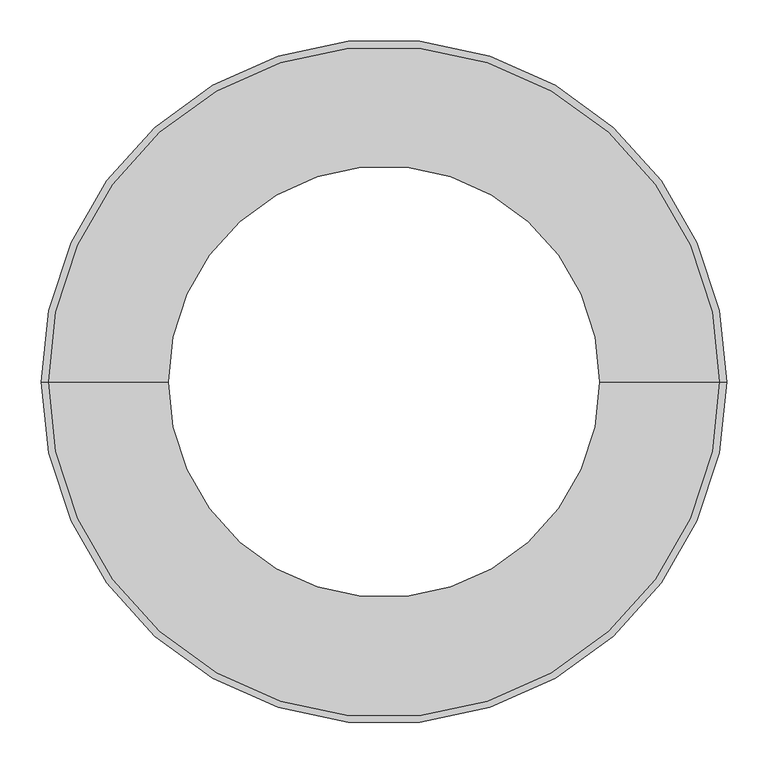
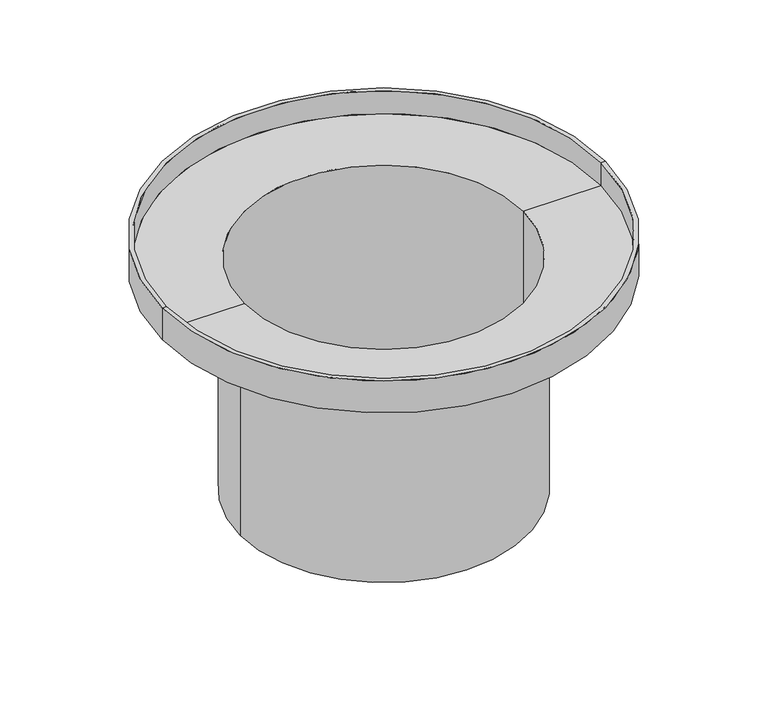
"""IFC4 building model written with IfcOpenShell, lengths in millimetres: valve geometry, Pipelife - Studnia PRO - Teleskop 630 : Teleskop."""

import ifcopenshell
import ifcopenshell.guid

model = None  # the IFC model being written
_history = None  # IfcOwnerHistory: only IFC2X3 demands one
_inside = {}  # id of a spatial element -> (the spatial element, [elements in it])
_under = {}  # id of a project, library or spatial element -> (it, [spatial elements below it])
_declared = {}  # id of a project -> (the project, [libraries it declares])
_typed = {}  # id of a type object -> (the type object, [elements of that type])
_made_of = {}  # id of a material, layer set ... -> (it, [elements and type objects made of it])


def new_model(schema):
    """Start an empty IFC model of exactly this schema.

    Asked for "IFC4X3", IfcOpenShell would pick the latest addendum, in which some entities
    have other attributes; the version numbers below select the first issue.
    IFC2X3 requires an IfcOwnerHistory on every rooted entity: one is made here for all.
    """
    global model, _history
    if schema == "IFC4X3":
        model = ifcopenshell.file(schema_version=(4, 3, 0, 0))
    else:
        model = ifcopenshell.file(schema=schema)
    _inside.clear()
    _under.clear()
    _declared.clear()
    _typed.clear()
    _made_of.clear()
    _history = None
    if model.schema == "IFC2X3":
        org = make("IfcOrganization", Name="unknown")
        user = make(
            "IfcPersonAndOrganization",
            ThePerson=make("IfcPerson", FamilyName="unknown"),
            TheOrganization=org,
        )
        app = make(
            "IfcApplication",
            ApplicationDeveloper=org,
            Version="unknown",
            ApplicationFullName="unknown",
            ApplicationIdentifier="unknown",
        )
        _history = make(
            "IfcOwnerHistory",
            OwningUser=user,
            OwningApplication=app,
            ChangeAction="ADDED",
            CreationDate=0,
        )
    return model


def make(cls, **values):
    """One entity of the class cls with the attributes given. An attribute that is None is left unset."""
    return model.create_entity(
        cls, **{name: value for name, value in values.items() if value is not None}
    )


def rooted(cls, **values):
    """An entity with a GlobalId (a new one), such as an element, a storey or a relation."""
    return make(cls, GlobalId=ifcopenshell.guid.new(), OwnerHistory=_history, **values)


def si_unit(unit_type, name, prefix=None):
    """IfcSIUnit, for example si_unit("LENGTHUNIT", "METRE", prefix="MILLI")."""
    return make("IfcSIUnit", UnitType=unit_type, Prefix=prefix, Name=name)


def assignment(units):
    """IfcUnitAssignment: the units of a project."""
    return None if units is None else make("IfcUnitAssignment", Units=units)


def point(xyz):
    """IfcCartesianPoint."""
    return None if xyz is None else make("IfcCartesianPoint", Coordinates=xyz)


def direction(xyz):
    """IfcDirection."""
    return None if xyz is None else make("IfcDirection", DirectionRatios=xyz)


def frame(location, z_axis=None, x_axis=None):
    """IfcAxis2Placement3D, a coordinate frame: its origin and axes. An axis left out is left unset."""
    return make(
        "IfcAxis2Placement3D",
        Location=point(location),
        Axis=direction(z_axis),
        RefDirection=direction(x_axis),
    )


def origin():
    """The frame at (0, 0, 0) with its axes left unset."""
    return frame((0.0, 0.0, 0.0))


def origin_with_axes():
    """The frame at (0, 0, 0) with the z axis (0, 0, 1) and the x axis (1, 0, 0) written out."""
    return frame((0.0, 0.0, 0.0), z_axis=(0.0, 0.0, 1.0), x_axis=(1.0, 0.0, 0.0))


def place(relative_to, where):
    """IfcLocalPlacement: puts the frame where relative to a parent placement (None: the world)."""
    return make(
        "IfcLocalPlacement", PlacementRelTo=relative_to, RelativePlacement=where
    )


def context(
    kind, dimensions, precision=None, world=None, true_north=None, identifier=None
):
    """IfcGeometricRepresentationContext, for example the 3D "Model" context."""
    return make(
        "IfcGeometricRepresentationContext",
        ContextIdentifier=identifier,
        ContextType=kind,
        CoordinateSpaceDimension=dimensions,
        Precision=precision,
        WorldCoordinateSystem=world,
        TrueNorth=true_north,
    )


def project(units=None, contexts=None):
    """IfcProject with its units and contexts."""
    return rooted(
        "IfcProject",
        Name="project",
        RepresentationContexts=contexts,
        UnitsInContext=assignment(units),
    )


def spatial(cls, under=None, at=None, **own):
    """A site, building, storey or space (cls), placed at a placement, below another one or the project."""
    s = rooted(cls, ObjectPlacement=at, **own)
    if under is not None:
        _under.setdefault(under.id(), (under, []))[1].append(s)
    return s


def polyline(points):
    """IfcPolyline through the points."""
    return make("IfcPolyline", Points=[point(p) for p in points])


def circle_curve(where, radius):
    """IfcCircle in the frame where."""
    return make("IfcCircle", Position=where, Radius=radius)


def shape(context_of_items, identifier, shape_type, items):
    """IfcShapeRepresentation: the items that make up one representation, for example the "Body"."""
    return make(
        "IfcShapeRepresentation",
        ContextOfItems=context_of_items,
        RepresentationIdentifier=identifier,
        RepresentationType=shape_type,
        Items=items,
    )


def source(mapping_origin, context_of_items, identifier, shape_type, items):
    """IfcRepresentationMap: a shape defined once, which mapped items show again and again."""
    return make(
        "IfcRepresentationMap",
        MappingOrigin=mapping_origin,
        MappedRepresentation=shape(context_of_items, identifier, shape_type, items),
    )


def transform(
    local_origin,
    x_axis=None,
    y_axis=None,
    z_axis=None,
    scale=None,
    scale2=None,
    scale3=None,
    uniform=True,
):
    """IfcCartesianTransformationOperator3D, or its non-uniform kind. x_axis, y_axis, z_axis: its Axis1, 2, 3."""
    if uniform:
        return make(
            "IfcCartesianTransformationOperator3D",
            Axis1=direction(x_axis),
            Axis2=direction(y_axis),
            LocalOrigin=point(local_origin),
            Scale=scale,
            Axis3=direction(z_axis),
        )
    return make(
        "IfcCartesianTransformationOperator3DnonUniform",
        Axis1=direction(x_axis),
        Axis2=direction(y_axis),
        LocalOrigin=point(local_origin),
        Scale=scale,
        Axis3=direction(z_axis),
        Scale2=scale2,
        Scale3=scale3,
    )


def mapped(mapping_source, mapping_target):
    """IfcMappedItem: shows the shape of a source again, moved by a transform."""
    return make(
        "IfcMappedItem", MappingSource=mapping_source, MappingTarget=mapping_target
    )


def made_of(thing, what):
    """Note that an element or type object is made of a material, layer set ...; save() writes the relation."""
    if what is not None:
        _made_of.setdefault(what.id(), (what, []))[1].append(thing)
    return thing


def element(
    cls,
    number,
    at=None,
    inside=None,
    cuts=None,
    type_object=None,
    material=None,
    context=None,
    identifier="Body",
    shape_type=None,
    held_by="IfcProductDefinitionShape",
    body=None,
    shapes=None,
    **own,
):
    """One element of the class cls, such as IfcWall. Its Tag is "e" and its number.

    at: its placement. inside: the storey or other place that contains it. cuts: it is an
    opening in that element (IfcRelVoidsElement). A single representation is given by context,
    identifier, shape_type and body (its items); several are given by shapes. held_by: the class
    of the entity that holds the representations. save() writes the other relations.
    """
    e = rooted(cls, Tag="e%d" % number, ObjectPlacement=at, **own)
    if body is not None:
        shapes = [shape(context, identifier, shape_type, body)]
    if shapes is not None:
        e.Representation = make(held_by, Representations=shapes)
    if inside is not None:
        _inside.setdefault(inside.id(), (inside, []))[1].append(e)
    if cuts is not None:
        rooted(
            "IfcRelVoidsElement", RelatingBuildingElement=cuts, RelatedOpeningElement=e
        )
    if type_object is not None:
        _typed.setdefault(type_object.id(), (type_object, []))[1].append(e)
    return made_of(e, material)


def aggregate(whole, parts):
    """IfcRelAggregates: a whole, such as a stair, and the parts it consists of."""
    return rooted("IfcRelAggregates", RelatingObject=whole, RelatedObjects=parts)


def save(model, path):
    """Write the relations noted so far, then the file.

    IfcRelAggregates (storeys below a building ...), IfcRelContainedInSpatialStructure (elements
    in a storey), IfcRelDefinesByType, IfcRelAssociatesMaterial and IfcRelDeclares: one each for
    every whole, place, type object, material and project.
    """
    for whole, parts in _under.values():
        aggregate(whole, parts)
    for where, things in _inside.values():
        rooted(
            "IfcRelContainedInSpatialStructure",
            RelatedElements=things,
            RelatingStructure=where,
        )
    for kind, things in _typed.values():
        rooted("IfcRelDefinesByType", RelatedObjects=things, RelatingType=kind)
    for what, things in _made_of.values():
        rooted("IfcRelAssociatesMaterial", RelatedObjects=things, RelatingMaterial=what)
    for by, libraries in _declared.values():
        rooted("IfcRelDeclares", RelatingContext=by, RelatedDefinitions=libraries)
    model.write(path)


def plane_surface(at):
    """IfcPlane: the flat surface through the origin of the frame at, square to its z axis."""
    return make("IfcPlane", Position=at)


def cylinder_surface(at, radius):
    """IfcCylindricalSurface: all points at the distance radius from the z axis of the frame at."""
    return make("IfcCylindricalSurface", Position=at, Radius=radius)


def revolved_surface(curve, axis_point, axis_direction):
    """IfcSurfaceOfRevolution: the curve turned about the line through axis_point along axis_direction."""
    return make(
        "IfcSurfaceOfRevolution",
        SweptCurve=make("IfcArbitraryOpenProfileDef", ProfileType="CURVE", Curve=curve),
        AxisPosition=make("IfcAxis1Placement", Location=point(axis_point), Axis=direction(axis_direction)),
    )


def advanced_brep(points, edges, surfaces, faces):
    """IfcAdvancedBrep: a solid bounded by faces that lie on surfaces and meet in shared edges.

    An edge is (start, end): straight between two places in points (the first is 0);
    or (start, end, curve); or (start, end, curve, False) where it runs against its curve.
    A face is (place in surfaces, loops), or (place, loops, False) where it looks against
    its surface's normal. A loop lists edges by number (the first is 1), with a minus sign
    where the edge is run from its end to its start. The first loop is the outer one.
    """
    corners = [point(p) for p in points]
    vertices = [make("IfcVertexPoint", VertexGeometry=c) for c in corners]
    made = []
    for start, end, *more in edges:
        made.append(
            make(
                "IfcEdgeCurve",
                EdgeStart=vertices[start],
                EdgeEnd=vertices[end],
                EdgeGeometry=more[0] if more else make("IfcPolyline", Points=[corners[start], corners[end]]),
                SameSense=more[1] if len(more) > 1 else True,
            )
        )
    hull = []
    for where, loops, *sense in faces:
        bounds = []
        for j, loop in enumerate(loops):
            ring = [make("IfcOrientedEdge", EdgeElement=made[abs(k) - 1], Orientation=k > 0) for k in loop]
            bounds.append(
                make(
                    "IfcFaceOuterBound" if j == 0 else "IfcFaceBound",
                    Bound=make("IfcEdgeLoop", EdgeList=ring),
                    Orientation=True,
                )
            )
        hull.append(make("IfcAdvancedFace", Bounds=bounds, FaceSurface=surfaces[where], SameSense=sense[0] if sense else True))
    return make("IfcAdvancedBrep", Outer=make("IfcClosedShell", CfsFaces=hull))


def valve_2651ab11(model_context):
    return source(origin(), model_context, "Body", "AdvancedBrep", [
        advanced_brep(
        [(-268.0, 0.0, 437.0), (268.0, 0.0, 437.0), (268.0, 0.0, 0.0), (-268.0, 0.0, 0.0), (-413.5, 0.0, 437.0), (413.5, 0.0, 437.0), (-413.5, 0.0, 500.0), (413.5, 0.0, 500.0), (-405.5, 0.0, 500.0), (405.5, 0.0, 500.0), (-405.5, 0.0, 455.0), (405.5, 0.0, 455.0), (-260.5, 0.0, 455.0), (260.5, 0.0, 455.0), (-260.5, 0.0, 0.0), (260.5, 0.0, 0.0)],
        [
            (0, 1, circle_curve(frame((0.0, 0.0, 437.0), z_axis=(0.0, 0.0, -1.0), x_axis=(1.0, 0.0, 0.0)), 268.0)),
            (1, 2),
            (2, 3, circle_curve(origin_with_axes(), 268.0)),
            (3, 0),
            (1, 0, circle_curve(frame((0.0, 0.0, 437.0), z_axis=(0.0, 0.0, -1.0), x_axis=(1.0, 0.0, 0.0)), 268.0)),
            (3, 2, circle_curve(origin_with_axes(), 268.0)),
            (4, 5, circle_curve(frame((0.0, 0.0, 437.0), z_axis=(0.0, 0.0, -1.0), x_axis=(1.0, 0.0, 0.0)), 413.5)),
            (5, 1),
            (0, 4),
            (5, 4, circle_curve(frame((0.0, 0.0, 437.0), z_axis=(0.0, 0.0, -1.0), x_axis=(1.0, 0.0, 0.0)), 413.5)),
            (6, 7, circle_curve(frame((0.0, 0.0, 500.0), z_axis=(0.0, 0.0, -1.0), x_axis=(1.0, 0.0, 0.0)), 413.5)),
            (7, 5),
            (4, 6),
            (7, 6, circle_curve(frame((0.0, 0.0, 500.0), z_axis=(0.0, 0.0, -1.0), x_axis=(1.0, 0.0, 0.0)), 413.5)),
            (8, 9, circle_curve(frame((0.0, 0.0, 500.0), z_axis=(0.0, 0.0, -1.0), x_axis=(1.0, 0.0, 0.0)), 405.5)),
            (9, 7),
            (6, 8),
            (9, 8, circle_curve(frame((0.0, 0.0, 500.0), z_axis=(0.0, 0.0, -1.0), x_axis=(1.0, 0.0, 0.0)), 405.5)),
            (10, 11, circle_curve(frame((0.0, 0.0, 455.0), z_axis=(0.0, 0.0, -1.0), x_axis=(1.0, 0.0, 0.0)), 405.5)),
            (11, 9),
            (8, 10),
            (11, 10, circle_curve(frame((0.0, 0.0, 455.0), z_axis=(0.0, 0.0, -1.0), x_axis=(1.0, 0.0, 0.0)), 405.5)),
            (12, 13, circle_curve(frame((0.0, 0.0, 455.0), z_axis=(0.0, 0.0, -1.0), x_axis=(1.0, 0.0, 0.0)), 260.5)),
            (13, 11),
            (10, 12),
            (13, 12, circle_curve(frame((0.0, 0.0, 455.0), z_axis=(0.0, 0.0, -1.0), x_axis=(1.0, 0.0, 0.0)), 260.5)),
            (14, 15, circle_curve(frame((0.0, 0.0, 0.0), z_axis=(0.0, 0.0, -1.0), x_axis=(1.0, 0.0, 0.0)), 260.5)),
            (15, 13),
            (12, 14),
            (15, 14, circle_curve(frame((0.0, 0.0, 0.0), z_axis=(0.0, 0.0, -1.0), x_axis=(1.0, 0.0, 0.0)), 260.5)),
            (2, 15),
            (14, 3),
        ],
        [
            cylinder_surface(frame((0.0, 0.0, 375.0), z_axis=(0.0, 0.0, 1.0), x_axis=(1.0, 0.0, 0.0)), 268.0),
            plane_surface(frame((0.0, 0.0, 437.0), z_axis=(0.0, 0.0, -1.0), x_axis=(1.0, 0.0, 0.0))),
            cylinder_surface(frame((0.0, 0.0, 375.0), z_axis=(0.0, 0.0, 1.0), x_axis=(1.0, 0.0, 0.0)), 413.5),
            plane_surface(frame((0.0, 0.0, 500.0), z_axis=(0.0, 0.0, 1.0), x_axis=(1.0, 0.0, 0.0))),
            revolved_surface(polyline([(405.5, 0.0, 500.0), (405.5, 0.0, 455.0)]), (0.0, 0.0, 375.0), (0.0, 0.0, 1.0)),
            plane_surface(frame((0.0, 0.0, 455.0), z_axis=(0.0, 0.0, 1.0), x_axis=(1.0, 0.0, 0.0))),
            revolved_surface(polyline([(260.5, 0.0, 455.0), (260.5, 0.0, 0.0)]), (0.0, 0.0, 375.0), (0.0, 0.0, 1.0)),
            plane_surface(frame((0.0, 0.0, 0.0), z_axis=(0.0, 0.0, -1.0), x_axis=(1.0, 0.0, 0.0))),
        ],
        [
            (0, [[1, 2, 3, 4]]),
            (0, [[5, -4, 6, -2]]),
            (1, [[7, 8, -1, 9]]),
            (1, [[10, -9, -5, -8]]),
            (2, [[11, 12, -7, 13]]),
            (2, [[14, -13, -10, -12]]),
            (3, [[15, 16, -11, 17]]),
            (3, [[18, -17, -14, -16]]),
            (4, [[19, 20, -15, 21]]),
            (4, [[22, -21, -18, -20]]),
            (5, [[23, 24, -19, 25]]),
            (5, [[26, -25, -22, -24]]),
            (6, [[27, 28, -23, 29]]),
            (6, [[30, -29, -26, -28]]),
            (7, [[-3, 31, -27, 32]]),
            (7, [[-6, -32, -30, -31]]),
        ],
    ),
    ])


if __name__ == "__main__":
    model = new_model("IFC4")
    model_context = context("Model", 3, world=origin())
    ifc_project = project(units=[si_unit("LENGTHUNIT", "METRE", prefix="MILLI")], contexts=[model_context])
    site = spatial("IfcSite", under=ifc_project)
    building = spatial("IfcBuilding", under=site)
    placement = place(None, origin())
    valve_shape = valve_2651ab11(model_context)
    element("IfcValve", 1, ObjectType="Pipelife - Studnia PRO - Teleskop 630 : Teleskop", at=placement, inside=building, context=model_context, shape_type="MappedRepresentation", body=[
        mapped(valve_shape, transform((0.0, 0.0, 0.0), x_axis=(1.0, 0.0, 0.0), y_axis=(0.0, 1.0, 0.0), z_axis=(0.0, 0.0, 1.0))),
    ])
    save(model, "model.ifc")
